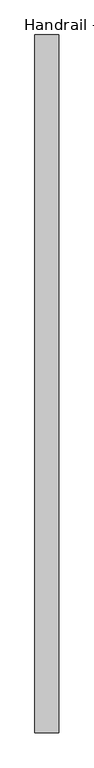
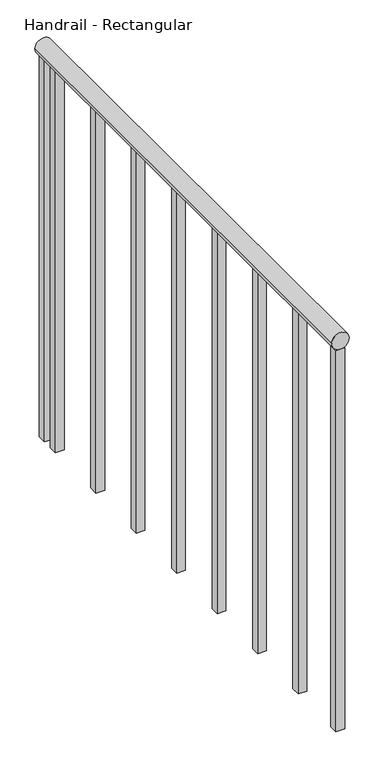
"""IFC4 building model written with IfcOpenShell, lengths in millimetres: railing geometry, Handrail - Rectangular."""

from ifc_helpers import new_model, si_unit, point, frame, frame_2d, origin, place, context, project, spatial, polyline, circle_curve, trimmed, segment, composite_curve, outline, extrude, source, transform, mapped, element, save


def handrail_rectangular_53595464(model_context):
    return source(origin(), model_context, "Body", "SweptSolid", [
        extrude(outline(composite_curve([segment(trimmed(circle_curve(frame_2d((3943.35, -18451.4839563)), 19.05), [point((3943.35, -18470.5339563))], [point((3943.35, -18432.4339563))], False, "CARTESIAN"), True, "CONTINUOUS"), segment(trimmed(circle_curve(frame_2d((3943.35, -18451.4839563)), 19.05), [point((3943.35, -18432.4339563))], [point((3943.35, -18470.5339563))], False, "CARTESIAN"), True, "CONTINUOUS")], self_intersect=False)), frame((0.0, -35349.9683133, 0.0), z_axis=(0.0, 1.0, 0.0), x_axis=(0.0, 0.0, 1.0)), (0.0, 0.0, 1.0), 1117.6),
        extrude(outline(polyline([(-18441.9589563, -34292.6933133), (-18461.0089563, -34292.6933133), (-18461.0089563, -34273.6433133), (-18441.9589563, -34273.6433133), (-18441.9589563, -34292.6933133)])), frame((0.0, 0.0, 3048.0), z_axis=(0.0, 0.0, 1.0), x_axis=(1.0, 0.0, 0.0)), (0.0, 0.0, 1.0), 876.3),
        extrude(outline(polyline([(-18441.9589563, -34445.0933133), (-18461.0089563, -34445.0933133), (-18461.0089563, -34426.0433133), (-18441.9589563, -34426.0433133), (-18441.9589563, -34445.0933133)])), frame((0.0, 0.0, 3048.0), z_axis=(0.0, 0.0, 1.0), x_axis=(1.0, 0.0, 0.0)), (0.0, 0.0, 1.0), 876.3),
        extrude(outline(polyline([(-18441.9589563, -34597.4933133), (-18461.0089563, -34597.4933133), (-18461.0089563, -34578.4433133), (-18441.9589563, -34578.4433133), (-18441.9589563, -34597.4933133)])), frame((0.0, 0.0, 3048.0), z_axis=(0.0, 0.0, 1.0), x_axis=(1.0, 0.0, 0.0)), (0.0, 0.0, 1.0), 876.3),
        extrude(outline(polyline([(-18441.9589563, -34749.8933133), (-18461.0089563, -34749.8933133), (-18461.0089563, -34730.8433133), (-18441.9589563, -34730.8433133), (-18441.9589563, -34749.8933133)])), frame((0.0, 0.0, 3048.0), z_axis=(0.0, 0.0, 1.0), x_axis=(1.0, 0.0, 0.0)), (0.0, 0.0, 1.0), 876.3),
        extrude(outline(polyline([(-18441.9589563, -34902.2933133), (-18461.0089563, -34902.2933133), (-18461.0089563, -34883.2433133), (-18441.9589563, -34883.2433133), (-18441.9589563, -34902.2933133)])), frame((0.0, 0.0, 3048.0), z_axis=(0.0, 0.0, 1.0), x_axis=(1.0, 0.0, 0.0)), (0.0, 0.0, 1.0), 876.3),
        extrude(outline(polyline([(-18441.9589563, -35054.6933133), (-18461.0089563, -35054.6933133), (-18461.0089563, -35035.6433133), (-18441.9589563, -35035.6433133), (-18441.9589563, -35054.6933133)])), frame((0.0, 0.0, 3048.0), z_axis=(0.0, 0.0, 1.0), x_axis=(1.0, 0.0, 0.0)), (0.0, 0.0, 1.0), 876.3),
        extrude(outline(polyline([(-18441.9589563, -35207.0933133), (-18461.0089563, -35207.0933133), (-18461.0089563, -35188.0433133), (-18441.9589563, -35188.0433133), (-18441.9589563, -35207.0933133)])), frame((0.0, 0.0, 3048.0), z_axis=(0.0, 0.0, 1.0), x_axis=(1.0, 0.0, 0.0)), (0.0, 0.0, 1.0), 876.3),
        extrude(outline(polyline([(-18441.9589563, -34251.4183133), (-18461.0089563, -34251.4183133), (-18461.0089563, -34232.3683133), (-18441.9589563, -34232.3683133), (-18441.9589563, -34251.4183133)])), frame((0.0, 0.0, 3048.0), z_axis=(0.0, 0.0, 1.0), x_axis=(1.0, 0.0, 0.0)), (0.0, 0.0, 1.0), 876.3),
        extrude(outline(polyline([(-18441.9589563, -35349.9683133), (-18461.0089563, -35349.9683133), (-18461.0089563, -35330.9183133), (-18441.9589563, -35330.9183133), (-18441.9589563, -35349.9683133)])), frame((0.0, 0.0, 3048.0), z_axis=(0.0, 0.0, 1.0), x_axis=(1.0, 0.0, 0.0)), (0.0, 0.0, 1.0), 876.3),
    ])


if __name__ == "__main__":
    model = new_model("IFC4")
    model_context = context("Model", 3, world=origin())
    ifc_project = project(units=[si_unit("LENGTHUNIT", "METRE", prefix="MILLI")], contexts=[model_context])
    site = spatial("IfcSite", under=ifc_project)
    building = spatial("IfcBuilding", under=site)
    placement = place(None, origin())
    handrail_rectangular_shape = handrail_rectangular_53595464(model_context)
    element("IfcRailing", 1, ObjectType="Handrail - Rectangular", at=placement, inside=building, context=model_context, shape_type="MappedRepresentation", body=[
        mapped(handrail_rectangular_shape, transform((0.0, 0.0, 0.0), x_axis=(1.0, 0.0, 0.0), y_axis=(0.0, 1.0, 0.0), z_axis=(0.0, 0.0, 1.0))),
    ])
    save(model, "model.ifc")
